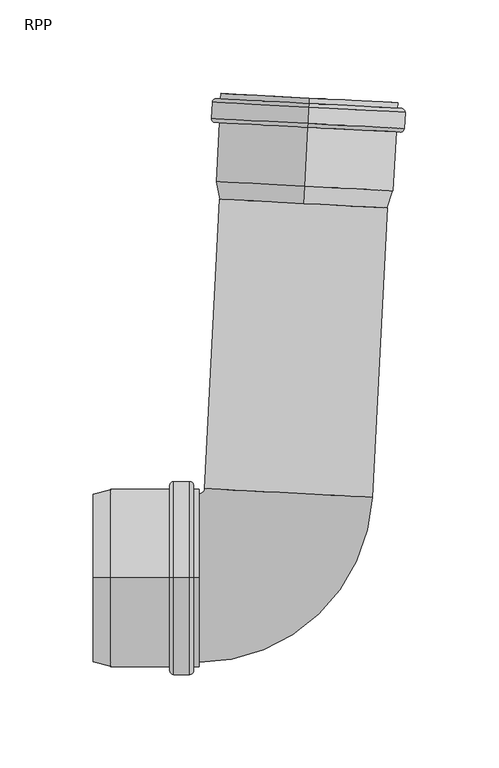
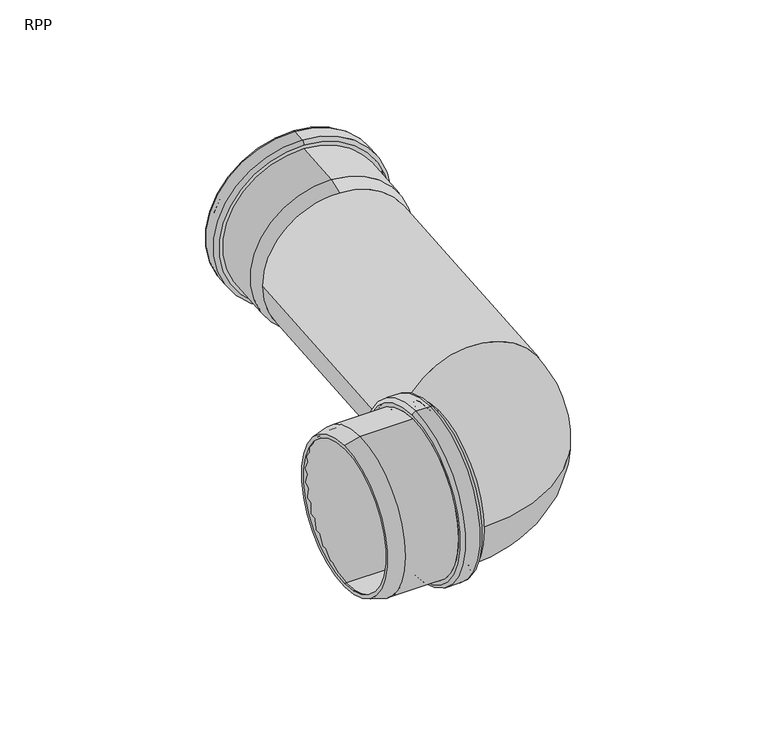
"""IFC4 building model written with IfcOpenShell, lengths in millimetres: pipe fitting geometry, RAUPIANO PLUS Deflection Bend : RPP."""

from ifc_helpers import new_model, si_unit, point, frame, origin, place, context, project, spatial, polyline, circle_curve, ellipse_curve, trimmed, source, transform, mapped, element, save
from ifc_brep_helpers import plane_surface, cylinder_surface, revolved_surface, advanced_brep


def rpp_7684fa40(model_context):
    return source(origin(), model_context, "Body", "AdvancedBrep", [
        advanced_brep(
        [(-58.9502992, 0.0, 45.3), (-58.9502992, 0.0, -45.3), (-92.4305367, 0.0, -45.3), (-92.4305367, 0.0, 45.3), (-58.4502992, 0.0, 49.7), (-58.4502992, 0.0, -49.7), (-58.9502992, 0.0, -49.2), (-58.9502992, 0.0, 49.2), (-51.1502992, 0.0, 49.7), (-51.1502992, 0.0, -49.7), (-50.6502992, 0.0, 49.2), (-50.6502992, 0.0, -49.2), (-45.5502992, 0.0, 45.3), (-45.5502992, 0.0, -45.3), (-50.6502992, 0.0, -45.3), (-50.6502992, 0.0, 45.3), (-48.4502992, 0.0, 47.5), (-48.4502992, 0.0, -47.5), (-45.5502992, 0.0, -47.5), (-45.5502992, 0.0, 47.5), (-50.4502992, 0.0, 51.9), (-50.4502992, 0.0, -51.9), (-48.4502992, 0.0, -49.9), (-48.4502992, 0.0, 49.9), (-59.1502992, 0.0, 51.9), (-59.1502992, 0.0, -51.9), (-61.1502992, 0.0, 49.9), (-61.1502992, 0.0, -49.9), (-92.7201722, 0.0, 47.5), (-92.7201722, 0.0, -47.5), (-61.1502992, 0.0, -47.5), (-61.1502992, 0.0, 47.5), (-102.0502992, 0.0, 45.0), (-102.0502992, 0.0, -45.0), (-102.0502992, 0.0, -42.7223924), (-102.0502992, 0.0, 42.7223924)],
        [
            (0, 1, circle_curve(frame((-58.9502992, 0.0, 0.0), z_axis=(1.0, 0.0, 0.0), x_axis=(0.0, 0.0, -1.0)), 45.3)),
            (1, 2),
            (2, 3, circle_curve(frame((-92.4305367, 0.0, 0.0), z_axis=(-1.0, 0.0, 0.0), x_axis=(0.0, 0.0, -1.0)), 45.3)),
            (3, 0),
            (4, 5, circle_curve(frame((-58.4502992, 0.0, 0.0), z_axis=(1.0, 0.0, 0.0), x_axis=(0.0, 0.0, -1.0)), 49.7)),
            (5, 6, circle_curve(frame((-58.4502992, 0.0, -49.2), z_axis=(0.0, 1.0, 0.0), x_axis=(0.0, 0.0, 1.0)), 0.5)),
            (6, 7, circle_curve(frame((-58.9502992, 0.0, 0.0), z_axis=(-1.0, 0.0, 0.0), x_axis=(0.0, 0.0, -1.0)), 49.2)),
            (7, 4, circle_curve(frame((-58.4502992, 0.0, 49.2), z_axis=(0.0, 1.0, 0.0), x_axis=(0.0, 0.0, -1.0)), 0.5)),
            (8, 9, circle_curve(frame((-51.1502992, 0.0, 0.0), z_axis=(1.0, 0.0, 0.0), x_axis=(0.0, 0.0, -1.0)), 49.7)),
            (9, 5),
            (4, 8),
            (10, 11, circle_curve(frame((-50.6502992, 0.0, 0.0), z_axis=(1.0, 0.0, 0.0), x_axis=(0.0, 0.0, -1.0)), 49.2)),
            (11, 9, circle_curve(frame((-51.1502992, 0.0, -49.2), z_axis=(0.0, 1.0, 0.0), x_axis=(0.0, 0.0, 1.0)), 0.5)),
            (8, 10, circle_curve(frame((-51.1502992, 0.0, 49.2), z_axis=(0.0, 1.0, 0.0), x_axis=(0.0, 0.0, -1.0)), 0.5)),
            (12, 13, circle_curve(frame((-45.5502992, 0.0, 0.0), z_axis=(1.0, 0.0, 0.0), x_axis=(0.0, 0.0, -1.0)), 45.3)),
            (13, 14),
            (14, 15, circle_curve(frame((-50.6502992, 0.0, 0.0), z_axis=(-1.0, 0.0, 0.0), x_axis=(0.0, 0.0, -1.0)), 45.3)),
            (15, 12),
            (16, 17, circle_curve(frame((-48.4502992, 0.0, 0.0), z_axis=(1.0, 0.0, 0.0), x_axis=(0.0, 0.0, -1.0)), 47.5)),
            (17, 18),
            (18, 19, circle_curve(frame((-45.5502992, 0.0, 0.0), z_axis=(-1.0, 0.0, 0.0), x_axis=(0.0, 0.0, -1.0)), 47.5)),
            (19, 16),
            (20, 21, circle_curve(frame((-50.4502992, 0.0, 0.0), z_axis=(1.0, 0.0, 0.0), x_axis=(0.0, 0.0, -1.0)), 51.9)),
            (21, 22, circle_curve(frame((-50.4502992, 0.0, -49.9), z_axis=(0.0, -1.0, 0.0), x_axis=(0.0, 0.0, 1.0)), 2.0)),
            (22, 23, circle_curve(frame((-48.4502992, 0.0, 0.0), z_axis=(-1.0, 0.0, 0.0), x_axis=(0.0, 0.0, -1.0)), 49.9)),
            (23, 20, circle_curve(frame((-50.4502992, 0.0, 49.9), z_axis=(0.0, -1.0, 0.0), x_axis=(0.0, 0.0, -1.0)), 2.0)),
            (24, 25, circle_curve(frame((-59.1502992, 0.0, 0.0), z_axis=(1.0, 0.0, 0.0), x_axis=(0.0, 0.0, -1.0)), 51.9)),
            (25, 21),
            (20, 24),
            (26, 27, circle_curve(frame((-61.1502992, 0.0, 0.0), z_axis=(1.0, 0.0, 0.0), x_axis=(0.0, 0.0, -1.0)), 49.9)),
            (27, 25, circle_curve(frame((-59.1502992, 0.0, -49.9), z_axis=(0.0, -1.0, 0.0), x_axis=(0.0, 0.0, 1.0)), 2.0)),
            (24, 26, circle_curve(frame((-59.1502992, 0.0, 49.9), z_axis=(0.0, -1.0, 0.0), x_axis=(0.0, 0.0, -1.0)), 2.0)),
            (28, 29, circle_curve(frame((-92.7201722, 0.0, 0.0), z_axis=(1.0, 0.0, 0.0), x_axis=(0.0, 0.0, -1.0)), 47.5)),
            (29, 30),
            (30, 31, circle_curve(frame((-61.1502992, 0.0, 0.0), z_axis=(-1.0, 0.0, 0.0), x_axis=(0.0, 0.0, -1.0)), 47.5)),
            (31, 28),
            (32, 33, circle_curve(frame((-102.0502992, 0.0, 0.0), z_axis=(1.0, 0.0, 0.0), x_axis=(0.0, 0.0, -1.0)), 45.0)),
            (33, 29),
            (28, 32),
            (2, 34),
            (34, 35, circle_curve(frame((-102.0502992, 0.0, 0.0), z_axis=(-1.0, 0.0, 0.0), x_axis=(0.0, 0.0, -1.0)), 42.7223924)),
            (35, 3),
            (1, 0, circle_curve(frame((-58.9502992, 0.0, 0.0), z_axis=(1.0, 0.0, 0.0), x_axis=(0.0, 0.0, 1.0)), 45.3)),
            (3, 2, circle_curve(frame((-92.4305367, 0.0, 0.0), z_axis=(-1.0, 0.0, 0.0), x_axis=(0.0, 0.0, 1.0)), 45.3)),
            (6, 7, circle_curve(frame((-58.9502992, 0.0, 0.0), z_axis=(1.0, 0.0, 0.0), x_axis=(0.0, 0.0, 1.0)), 49.2)),
            (5, 4, circle_curve(frame((-58.4502992, 0.0, 0.0), z_axis=(1.0, 0.0, 0.0), x_axis=(0.0, 0.0, 1.0)), 49.7)),
            (9, 8, circle_curve(frame((-51.1502992, 0.0, 0.0), z_axis=(1.0, 0.0, 0.0), x_axis=(0.0, 0.0, 1.0)), 49.7)),
            (11, 10, circle_curve(frame((-50.6502992, 0.0, 0.0), z_axis=(1.0, 0.0, 0.0), x_axis=(0.0, 0.0, 1.0)), 49.2)),
            (14, 15, circle_curve(frame((-50.6502992, 0.0, 0.0), z_axis=(1.0, 0.0, 0.0), x_axis=(0.0, 0.0, 1.0)), 45.3)),
            (13, 12, circle_curve(frame((-45.5502992, 0.0, 0.0), z_axis=(1.0, 0.0, 0.0), x_axis=(0.0, 0.0, 1.0)), 45.3)),
            (18, 19, circle_curve(frame((-45.5502992, 0.0, 0.0), z_axis=(1.0, 0.0, 0.0), x_axis=(0.0, 0.0, 1.0)), 47.5)),
            (17, 16, circle_curve(frame((-48.4502992, 0.0, 0.0), z_axis=(1.0, 0.0, 0.0), x_axis=(0.0, 0.0, 1.0)), 47.5)),
            (22, 23, circle_curve(frame((-48.4502992, 0.0, 0.0), z_axis=(1.0, 0.0, 0.0), x_axis=(0.0, 0.0, 1.0)), 49.9)),
            (21, 20, circle_curve(frame((-50.4502992, 0.0, 0.0), z_axis=(1.0, 0.0, 0.0), x_axis=(0.0, 0.0, 1.0)), 51.9)),
            (25, 24, circle_curve(frame((-59.1502992, 0.0, 0.0), z_axis=(1.0, 0.0, 0.0), x_axis=(0.0, 0.0, 1.0)), 51.9)),
            (27, 26, circle_curve(frame((-61.1502992, 0.0, 0.0), z_axis=(1.0, 0.0, 0.0), x_axis=(0.0, 0.0, 1.0)), 49.9)),
            (30, 31, circle_curve(frame((-61.1502992, 0.0, 0.0), z_axis=(1.0, 0.0, 0.0), x_axis=(0.0, 0.0, 1.0)), 47.5)),
            (29, 28, circle_curve(frame((-92.7201722, 0.0, 0.0), z_axis=(1.0, 0.0, 0.0), x_axis=(0.0, 0.0, 1.0)), 47.5)),
            (33, 32, circle_curve(frame((-102.0502992, 0.0, 0.0), z_axis=(1.0, 0.0, 0.0), x_axis=(0.0, 0.0, 1.0)), 45.0)),
            (34, 35, circle_curve(frame((-102.0502992, 0.0, 0.0), z_axis=(1.0, 0.0, 0.0), x_axis=(0.0, 0.0, 1.0)), 42.7223924)),
        ],
        [
            revolved_surface(polyline([(-92.4305367, 0.0, -45.3), (-58.9502992, 0.0, -45.3)]), (-102.0502992, 0.0, 0.0), (-1.0, 0.0, 0.0)),
            revolved_surface(trimmed(ellipse_curve(frame((-58.4502992, 0.0, -49.2), z_axis=(0.0, -1.0, 0.0), x_axis=(0.0, 0.0, 1.0)), 0.5, 0.5), [point((-58.9502992, 0.0, -49.2))], [point((-58.4502992, 0.0, -49.7))], True, "CARTESIAN"), (-102.0502992, 0.0, 0.0), (-1.0, 0.0, 0.0)),
            revolved_surface(polyline([(-58.4502992, 0.0, -49.7), (-51.1502992, 0.0, -49.7)]), (-102.0502992, 0.0, 0.0), (-1.0, 0.0, 0.0)),
            revolved_surface(trimmed(ellipse_curve(frame((-51.1502992, 0.0, -49.2), z_axis=(0.0, -1.0, 0.0), x_axis=(0.0, 0.0, 1.0)), 0.5, 0.5), [point((-51.1502992, 0.0, -49.7))], [point((-50.6502992, 0.0, -49.2))], True, "CARTESIAN"), (-102.0502992, 0.0, 0.0), (-1.0, 0.0, 0.0)),
            revolved_surface(polyline([(-50.6502992, 0.0, -45.3), (-45.5502992, 0.0, -45.3)]), (-102.0502992, 0.0, 0.0), (-1.0, 0.0, 0.0)),
            cylinder_surface(frame((-102.0502992, 0.0, 0.0), z_axis=(-1.0, 0.0, 0.0), x_axis=(0.0, 0.0, -1.0)), 47.5),
            revolved_surface(trimmed(ellipse_curve(frame((-50.4502992, 0.0, -49.9), z_axis=(0.0, 1.0, 0.0), x_axis=(0.0, 0.0, 1.0)), 2.0, 2.0), [point((-48.4502992, 0.0, -49.9))], [point((-50.4502992, 0.0, -51.9))], True, "CARTESIAN"), (-102.0502992, 0.0, 0.0), (-1.0, 0.0, 0.0)),
            cylinder_surface(frame((-102.0502992, 0.0, 0.0), z_axis=(-1.0, 0.0, 0.0), x_axis=(0.0, 0.0, -1.0)), 51.9),
            revolved_surface(trimmed(ellipse_curve(frame((-59.1502992, 0.0, -49.9), z_axis=(0.0, 1.0, 0.0), x_axis=(0.0, 0.0, 1.0)), 2.0, 2.0), [point((-59.1502992, 0.0, -51.9))], [point((-61.1502992, 0.0, -49.9))], True, "CARTESIAN"), (-102.0502992, 0.0, 0.0), (-1.0, 0.0, 0.0)),
            revolved_surface(polyline([(-92.7201722, 0.0, -47.5), (-102.0502992, 0.0, -45.0)]), (-102.0502992, 0.0, 0.0), (-1.0, 0.0, 0.0)),
            revolved_surface(polyline([(-102.0502992, 0.0, -42.7223924), (-92.4305367, 0.0, -45.3)]), (-102.0502992, 0.0, 0.0), (-1.0, 0.0, 0.0)),
            revolved_surface(polyline([(-92.4305367, 0.0, 45.3), (-58.9502992, 0.0, 45.3)]), (-102.0502992, 0.0, 0.0), (-1.0, 0.0, 0.0)),
            plane_surface(frame((-58.9502992, 0.0, 0.0), z_axis=(1.0, 0.0, 0.0), x_axis=(0.0, 0.0, 1.0))),
            revolved_surface(trimmed(ellipse_curve(frame((-58.4502992, 0.0, 49.2), z_axis=(0.0, 1.0, 0.0), x_axis=(0.0, 0.0, -1.0)), 0.5, 0.5), [point((-58.9502992, 0.0, 49.2))], [point((-58.4502992, 0.0, 49.7))], True, "CARTESIAN"), (-102.0502992, 0.0, 0.0), (-1.0, 0.0, 0.0)),
            revolved_surface(polyline([(-58.4502992, 0.0, 49.7), (-51.1502992, 0.0, 49.7)]), (-102.0502992, 0.0, 0.0), (-1.0, 0.0, 0.0)),
            revolved_surface(trimmed(ellipse_curve(frame((-51.1502992, 0.0, 49.2), z_axis=(0.0, 1.0, 0.0), x_axis=(0.0, 0.0, -1.0)), 0.5, 0.5), [point((-51.1502992, 0.0, 49.7))], [point((-50.6502992, 0.0, 49.2))], True, "CARTESIAN"), (-102.0502992, 0.0, 0.0), (-1.0, 0.0, 0.0)),
            plane_surface(frame((-50.6502992, 0.0, 0.0), z_axis=(-1.0, 0.0, 0.0), x_axis=(0.0, 0.0, 1.0))),
            revolved_surface(polyline([(-50.6502992, 0.0, 45.3), (-45.5502992, 0.0, 45.3)]), (-102.0502992, 0.0, 0.0), (-1.0, 0.0, 0.0)),
            plane_surface(frame((-45.5502992, 0.0, 0.0), z_axis=(1.0, 0.0, 0.0), x_axis=(0.0, 0.0, 1.0))),
            cylinder_surface(frame((-102.0502992, 0.0, 0.0), z_axis=(-1.0, 0.0, 0.0), x_axis=(0.0, 0.0, 1.0)), 47.5),
            plane_surface(frame((-48.4502992, 0.0, 0.0), z_axis=(1.0, 0.0, 0.0), x_axis=(0.0, 0.0, 1.0))),
            revolved_surface(trimmed(ellipse_curve(frame((-50.4502992, 0.0, 49.9), z_axis=(0.0, -1.0, 0.0), x_axis=(0.0, 0.0, -1.0)), 2.0, 2.0), [point((-48.4502992, 0.0, 49.9))], [point((-50.4502992, 0.0, 51.9))], True, "CARTESIAN"), (-102.0502992, 0.0, 0.0), (-1.0, 0.0, 0.0)),
            cylinder_surface(frame((-102.0502992, 0.0, 0.0), z_axis=(-1.0, 0.0, 0.0), x_axis=(0.0, 0.0, 1.0)), 51.9),
            revolved_surface(trimmed(ellipse_curve(frame((-59.1502992, 0.0, 49.9), z_axis=(0.0, -1.0, 0.0), x_axis=(0.0, 0.0, -1.0)), 2.0, 2.0), [point((-59.1502992, 0.0, 51.9))], [point((-61.1502992, 0.0, 49.9))], True, "CARTESIAN"), (-102.0502992, 0.0, 0.0), (-1.0, 0.0, 0.0)),
            plane_surface(frame((-61.1502992, 0.0, 0.0), z_axis=(-1.0, 0.0, 0.0), x_axis=(0.0, 0.0, 1.0))),
            revolved_surface(polyline([(-92.7201722, 0.0, 47.5), (-102.0502992, 0.0, 45.0)]), (-102.0502992, 0.0, 0.0), (-1.0, 0.0, 0.0)),
            plane_surface(frame((-102.0502992, 0.0, 0.0), z_axis=(-1.0, 0.0, 0.0), x_axis=(0.0, 0.0, 1.0))),
            revolved_surface(polyline([(-102.0502992, 0.0, 42.7223924), (-92.4305367, 0.0, 45.3)]), (-102.0502992, 0.0, 0.0), (-1.0, 0.0, 0.0)),
        ],
        [
            (0, [[1, 2, 3, 4]]),
            (1, [[5, 6, 7, 8]]),
            (2, [[9, 10, -5, 11]]),
            (3, [[12, 13, -9, 14]]),
            (4, [[15, 16, 17, 18]]),
            (5, [[19, 20, 21, 22]]),
            (6, [[23, 24, 25, 26]]),
            (7, [[27, 28, -23, 29]]),
            (8, [[30, 31, -27, 32]]),
            (5, [[33, 34, 35, 36]]),
            (9, [[37, 38, -33, 39]]),
            (10, [[-3, 40, 41, 42]]),
            (11, [[43, -4, 44, -2]]),
            (12, [[45, -7], [-43, -1]]),
            (13, [[46, -8, -45, -6]]),
            (14, [[47, -11, -46, -10]]),
            (15, [[48, -14, -47, -13]]),
            (16, [[-48, -12], [49, -17]]),
            (17, [[50, -18, -49, -16]]),
            (18, [[51, -21], [-50, -15]]),
            (19, [[52, -22, -51, -20]]),
            (20, [[53, -25], [-52, -19]]),
            (21, [[54, -26, -53, -24]]),
            (22, [[55, -29, -54, -28]]),
            (23, [[56, -32, -55, -31]]),
            (24, [[-56, -30], [57, -35]]),
            (19, [[58, -36, -57, -34]]),
            (25, [[59, -39, -58, -38]]),
            (26, [[-59, -37], [60, -41]]),
            (27, [[-44, -42, -60, -40]]),
        ],
    ),
        advanced_brep(
        [(-45.5502992, 0.0, -42.8), (-102.0502992, 0.0, -42.8), (-102.0502992, 0.0, 42.8), (-45.5502992, 0.0, 42.8), (-45.5502992, -42.8, 0.0), (-98.3182484, 0.0, 45.0), (-98.3182484, 0.0, -45.0), (-45.5502992, 0.0, -45.0), (-45.5502992, -45.0, 0.0), (-45.5502992, 0.0, 45.0), (-102.0502992, 0.0, 44.0), (-102.0502992, 0.0, -44.0), (-45.5502992, 42.8, 0.0), (-45.5502992, 45.0, 0.0), (-40.3574256, 47.727853, 0.0), (45.1252626, 43.2478952, 0.0), (-42.5544106, 47.8429921, 0.0), (47.3222475, 43.1327561, 0.0), (2.3839185, 45.4878741, 45.0), (2.3839185, 45.4878741, -45.0), (55.4343207, 197.920334, 0.0), (-34.4423374, 202.63057, 0.0), (53.2373358, 198.0354731, 0.0), (-32.2453524, 202.5154309, 0.0)],
        [
            (0, 1),
            (1, 2, circle_curve(frame((-102.0502992, 0.0, 0.0), z_axis=(-1.0, 0.0, 0.0), x_axis=(0.0, 0.0, -1.0)), 42.8)),
            (2, 3),
            (3, 4, circle_curve(frame((-45.5502992, 0.0, 0.0), z_axis=(1.0, 0.0, 0.0), x_axis=(0.0, 0.0, -1.0)), 42.8)),
            (4, 0, circle_curve(frame((-45.5502992, 0.0, 0.0), z_axis=(1.0, 0.0, 0.0), x_axis=(0.0, 0.0, -1.0)), 42.8)),
            (5, 6, circle_curve(frame((-98.3182484, 0.0, 0.0), z_axis=(1.0, 0.0, 0.0), x_axis=(0.0, 0.0, -1.0)), 45.0)),
            (6, 7),
            (7, 8, circle_curve(frame((-45.5502992, 0.0, 0.0), z_axis=(-1.0, 0.0, 0.0), x_axis=(0.0, 0.0, -1.0)), 45.0)),
            (8, 9, circle_curve(frame((-45.5502992, 0.0, 0.0), z_axis=(-1.0, 0.0, 0.0), x_axis=(0.0, 0.0, -1.0)), 45.0)),
            (9, 5),
            (5, 10),
            (10, 11, circle_curve(frame((-102.0502992, 0.0, 0.0), z_axis=(1.0, 0.0, 0.0), x_axis=(0.0, 0.0, -1.0)), 44.0)),
            (11, 6),
            (0, 12, circle_curve(frame((-45.5502992, 0.0, 0.0), z_axis=(1.0, 0.0, 0.0), x_axis=(0.0, 0.0, 1.0)), 42.8)),
            (12, 3, circle_curve(frame((-45.5502992, 0.0, 0.0), z_axis=(1.0, 0.0, 0.0), x_axis=(0.0, 0.0, 1.0)), 42.8)),
            (2, 1, circle_curve(frame((-102.0502992, 0.0, 0.0), z_axis=(-1.0, 0.0, 0.0), x_axis=(0.0, 0.0, 1.0)), 42.8)),
            (6, 5, circle_curve(frame((-98.3182484, 0.0, 0.0), z_axis=(1.0, 0.0, 0.0), x_axis=(0.0, 0.0, 1.0)), 45.0)),
            (9, 13, circle_curve(frame((-45.5502992, 0.0, 0.0), z_axis=(-1.0, 0.0, 0.0), x_axis=(0.0, 0.0, 1.0)), 45.0)),
            (13, 7, circle_curve(frame((-45.5502992, 0.0, 0.0), z_axis=(-1.0, 0.0, 0.0), x_axis=(0.0, 0.0, 1.0)), 45.0)),
            (11, 10, circle_curve(frame((-102.0502992, 0.0, 0.0), z_axis=(1.0, 0.0, 0.0), x_axis=(0.0, 0.0, 1.0)), 44.0)),
            (14, 12, circle_curve(frame((-45.5502992, 48.0, 0.0), z_axis=(0.0, 0.0, -1.0), x_axis=(0.0, -1.0, 0.0)), 5.2)),
            (4, 15, circle_curve(frame((-45.5502992, 48.0, 0.0), z_axis=(0.0, 0.0, 1.0), x_axis=(0.0, -1.0, 0.0)), 90.8)),
            (15, 14, circle_curve(frame((2.3839185, 45.4878741, 0.0), z_axis=(0.052335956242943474, 0.9986295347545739, 0.0), x_axis=(-0.9986295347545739, 0.052335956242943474, 0.0)), 42.8)),
            (14, 15, circle_curve(frame((2.3839185, 45.4878741, 0.0), z_axis=(0.052335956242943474, 0.9986295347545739, 0.0), x_axis=(-0.9986295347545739, 0.052335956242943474, 0.0)), 42.8)),
            (16, 13, circle_curve(frame((-45.5502992, 48.0, 0.0), z_axis=(0.0, 0.0, -1.0), x_axis=(0.0, -1.0, 0.0)), 3.0)),
            (8, 17, circle_curve(frame((-45.5502992, 48.0, 0.0), z_axis=(0.0, 0.0, 1.0), x_axis=(0.0, -1.0, 0.0)), 93.0)),
            (17, 18, circle_curve(frame((2.3839185, 45.4878741, 0.0), z_axis=(-0.052335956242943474, -0.9986295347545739, 0.0), x_axis=(-0.9986295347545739, 0.052335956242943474, 0.0)), 45.0)),
            (18, 16, circle_curve(frame((2.3839185, 45.4878741, 0.0), z_axis=(-0.052335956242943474, -0.9986295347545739, 0.0), x_axis=(-0.9986295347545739, 0.052335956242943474, 0.0)), 45.0)),
            (16, 19, circle_curve(frame((2.3839185, 45.4878741, 0.0), z_axis=(-0.052335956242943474, -0.9986295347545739, 0.0), x_axis=(-0.9986295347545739, 0.052335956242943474, 0.0)), 45.0)),
            (19, 17, circle_curve(frame((2.3839185, 45.4878741, 0.0), z_axis=(-0.052335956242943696, -0.9986295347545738, 0.0), x_axis=(-0.9986295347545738, 0.052335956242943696, 0.0)), 45.0)),
            (20, 21, circle_curve(frame((10.4959917, 200.275452, 0.0), z_axis=(0.05233595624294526, 0.9986295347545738, 0.0), x_axis=(-0.9986295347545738, 0.05233595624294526, 0.0)), 45.0)),
            (21, 20, circle_curve(frame((10.4959917, 200.275452, 0.0), z_axis=(0.05233595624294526, 0.9986295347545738, 0.0), x_axis=(-0.9986295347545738, 0.05233595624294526, 0.0)), 45.0)),
            (22, 23, circle_curve(frame((10.4959917, 200.275452, 0.0), z_axis=(-0.05233595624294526, -0.9986295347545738, 0.0), x_axis=(-0.9986295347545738, 0.05233595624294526, 0.0)), 42.8)),
            (23, 22, circle_curve(frame((10.4959917, 200.275452, 0.0), z_axis=(-0.05233595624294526, -0.9986295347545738, 0.0), x_axis=(-0.9986295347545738, 0.05233595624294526, 0.0)), 42.8)),
            (23, 14),
            (15, 22),
            (21, 16),
            (17, 20),
        ],
        [
            revolved_surface(polyline([(-102.0502992, 0.0, -42.8), (-45.5502992, 0.0, -42.8)]), (-45.5502992, 0.0, 0.0), (-1.0, 0.0, 0.0)),
            cylinder_surface(frame((-45.5502992, 0.0, 0.0), z_axis=(-1.0, 0.0, 0.0), x_axis=(0.0, 0.0, -1.0)), 45.0),
            revolved_surface(polyline([(-98.3182484, 0.0, -45.0), (-102.0502992, 0.0, -44.0)]), (-45.5502992, 0.0, 0.0), (-1.0, 0.0, 0.0)),
            revolved_surface(polyline([(-102.0502992, 0.0, 42.8), (-45.5502992, 0.0, 42.8)]), (-45.5502992, 0.0, 0.0), (-1.0, 0.0, 0.0)),
            cylinder_surface(frame((-45.5502992, 0.0, 0.0), z_axis=(-1.0, 0.0, 0.0), x_axis=(0.0, 0.0, 1.0)), 45.0),
            revolved_surface(polyline([(-98.3182484, 0.0, 45.0), (-102.0502992, 0.0, 44.0)]), (-45.5502992, 0.0, 0.0), (-1.0, 0.0, 0.0)),
            plane_surface(frame((-102.0502992, 0.0, 0.0), z_axis=(-1.0, 0.0, 0.0), x_axis=(0.0, 0.0, 1.0))),
            revolved_surface(trimmed(ellipse_curve(frame((-45.5502992, 0.0, 0.0), z_axis=(1.0, 0.0, 0.0), x_axis=(0.0, 1.0, 0.0)), 42.8, 42.8), [point((-45.5502992, -42.8, 0.0))], [point((-45.5502992, 42.8, 0.0))], True, "CARTESIAN"), (-45.5502992, 48.0, 0.0), (0.0, 0.0, 1.0)),
            revolved_surface(trimmed(ellipse_curve(frame((-45.5502992, 0.0, 0.0), z_axis=(1.0, 0.0, 0.0), x_axis=(0.0, 1.0, 0.0)), 42.8, 42.8), [point((-45.5502992, 42.8, 0.0))], [point((-45.5502992, -42.8, 0.0))], True, "CARTESIAN"), (-45.5502992, 48.0, 0.0), (0.0, 0.0, 1.0)),
            revolved_surface(trimmed(ellipse_curve(frame((-45.5502992, 0.0, 0.0), z_axis=(-1.0, 0.0, 0.0), x_axis=(0.0, 1.0, 0.0)), 45.0, 45.0), [point((-45.5502992, -45.0, 0.0))], [point((-45.5502992, 45.0, 0.0))], True, "CARTESIAN"), (-45.5502992, 48.0, 0.0), (0.0, 0.0, 1.0)),
            revolved_surface(trimmed(ellipse_curve(frame((-45.5502992, 0.0, 0.0), z_axis=(-1.0, 0.0, 0.0), x_axis=(0.0, 1.0, 0.0)), 45.0, 45.0), [point((-45.5502992, 45.0, 0.0))], [point((-45.5502992, -45.0, 0.0))], True, "CARTESIAN"), (-45.5502992, 48.0, 0.0), (0.0, 0.0, 1.0)),
            plane_surface(frame((10.4959917, 200.275452, 0.0), z_axis=(0.05233595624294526, 0.9986295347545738, 0.0), x_axis=(0.0, 0.0, 1.0))),
            revolved_surface(polyline([(-32.245352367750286, 202.51543095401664, 0.0), (-40.35742558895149, 47.727852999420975, 0.0)]), (2.3839185, 45.4878741, 0.0), (0.05233595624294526, 0.9986295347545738, 0.0)),
            cylinder_surface(frame((2.3839185, 45.4878741, 0.0), z_axis=(-0.05233595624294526, -0.9986295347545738, 0.0), x_axis=(-0.9986295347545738, 0.05233595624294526, 0.0)), 45.0),
        ],
        [
            (0, [[1, 2, 3, 4, 5]]),
            (1, [[6, 7, 8, 9, 10]]),
            (2, [[-6, 11, 12, 13]]),
            (3, [[-1, 14, 15, -3, 16]]),
            (4, [[-7, 17, -10, 18, 19]]),
            (5, [[-13, 20, -11, -17]]),
            (6, [[-12, -20], [-2, -16]]),
            (7, [[21, -14, -5, 22, 23]]),
            (8, [[-21, 24, -22, -4, -15]]),
            (9, [[25, -18, -9, 26, 27, 28]]),
            (10, [[-25, 29, 30, -26, -8, -19]]),
            (11, [[31, 32], [33, 34]]),
            (12, [[-34, 35, -23, 36]]),
            (12, [[-33, -36, -24, -35]]),
            (13, [[-32, 37, -28, -27, 38]]),
            (13, [[-31, -38, -30, -29, -37]]),
        ],
    ),
        advanced_brep(
        [(10.4959917, 200.275452, 42.7223924), (10.4959917, 200.275452, -42.7223924), (10.9994512, 209.882031, -45.3), (10.9994512, 209.882031, 45.3), (10.9842928, 209.5927924, 47.5), (10.9842928, 209.5927924, -47.5), (10.4959917, 200.275452, -45.0), (10.4959917, 200.275452, 45.0), (12.6365323, 241.1194, 47.5), (12.6365323, 241.1194, -47.5), (12.7412042, 243.116659, 51.9), (12.7412042, 243.116659, -51.9), (12.6365323, 241.1194, -49.9), (12.6365323, 241.1194, 49.9), (13.196527, 251.804736, 51.9), (13.196527, 251.804736, -51.9), (13.3011989, 253.8019951, 49.9), (13.3011989, 253.8019951, -49.9), (13.4529732, 256.6980207, 47.5), (13.4529732, 256.6980207, -47.5), (13.3011989, 253.8019951, -47.5), (13.3011989, 253.8019951, 47.5), (13.1860598, 251.6050101, 45.3), (13.1860598, 251.6050101, -45.3), (13.4529732, 256.6980207, -45.3), (13.4529732, 256.6980207, 45.3), (13.1598919, 251.1056953, 49.7), (13.1598919, 251.1056953, -49.7), (13.1860598, 251.6050101, -49.2), (13.1860598, 251.6050101, 49.2), (12.7778394, 243.8156997, 49.7), (12.7778394, 243.8156997, -49.7), (12.7516714, 243.3163849, 49.2), (12.7516714, 243.3163849, -49.2), (12.7516714, 243.3163849, -45.3), (12.7516714, 243.3163849, 45.3)],
        [
            (0, 1, circle_curve(frame((10.4959917, 200.275452, 0.0), z_axis=(-0.05233595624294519, -0.9986295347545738, 0.0), x_axis=(0.0, 0.0, -1.0)), 42.7223924)),
            (1, 2),
            (2, 3, circle_curve(frame((10.9994512, 209.882031, 0.0), z_axis=(0.05233595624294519, 0.9986295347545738, 0.0), x_axis=(0.0, 0.0, -1.0)), 45.3)),
            (3, 0),
            (4, 5, circle_curve(frame((10.9842928, 209.5927924, 0.0), z_axis=(-0.05233595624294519, -0.9986295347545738, 0.0), x_axis=(0.0, 0.0, -1.0)), 47.5)),
            (5, 6),
            (6, 7, circle_curve(frame((10.4959917, 200.275452, 0.0), z_axis=(0.05233595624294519, 0.9986295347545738, 0.0), x_axis=(0.0, 0.0, -1.0)), 45.0)),
            (7, 4),
            (8, 9, circle_curve(frame((12.6365323, 241.1194, 0.0), z_axis=(-0.05233595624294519, -0.9986295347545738, 0.0), x_axis=(0.0, 0.0, -1.0)), 47.5)),
            (9, 5),
            (4, 8),
            (10, 11, circle_curve(frame((12.7412042, 243.116659, 0.0), z_axis=(-0.05233595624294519, -0.9986295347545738, 0.0), x_axis=(0.0, 0.0, -1.0)), 51.9)),
            (11, 12, circle_curve(frame((12.7412042, 243.116659, -49.9), z_axis=(-0.9986295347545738, 0.05233595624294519, 0.0), x_axis=(0.0, 0.0, 1.0)), 2.0)),
            (12, 13, circle_curve(frame((12.6365323, 241.1194, 0.0), z_axis=(0.05233595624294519, 0.9986295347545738, 0.0), x_axis=(0.0, 0.0, -1.0)), 49.9)),
            (13, 10, circle_curve(frame((12.7412042, 243.116659, 49.9), z_axis=(-0.9986295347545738, 0.05233595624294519, 0.0), x_axis=(0.0, 0.0, -1.0)), 2.0)),
            (14, 15, circle_curve(frame((13.196527, 251.804736, 0.0), z_axis=(-0.05233595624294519, -0.9986295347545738, 0.0), x_axis=(0.0, 0.0, -1.0)), 51.9)),
            (15, 11),
            (10, 14),
            (16, 17, circle_curve(frame((13.3011989, 253.8019951, 0.0), z_axis=(-0.05233595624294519, -0.9986295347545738, 0.0), x_axis=(0.0, 0.0, -1.0)), 49.9)),
            (17, 15, circle_curve(frame((13.196527, 251.804736, -49.9), z_axis=(-0.9986295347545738, 0.05233595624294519, 0.0), x_axis=(0.0, 0.0, 1.0)), 2.0)),
            (14, 16, circle_curve(frame((13.196527, 251.804736, 49.9), z_axis=(-0.9986295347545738, 0.05233595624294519, 0.0), x_axis=(0.0, 0.0, -1.0)), 2.0)),
            (18, 19, circle_curve(frame((13.4529732, 256.6980207, 0.0), z_axis=(-0.05233595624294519, -0.9986295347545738, 0.0), x_axis=(0.0, 0.0, -1.0)), 47.5)),
            (19, 20),
            (20, 21, circle_curve(frame((13.3011989, 253.8019951, 0.0), z_axis=(0.05233595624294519, 0.9986295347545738, 0.0), x_axis=(0.0, 0.0, -1.0)), 47.5)),
            (21, 18),
            (22, 23, circle_curve(frame((13.1860598, 251.6050101, 0.0), z_axis=(-0.05233595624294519, -0.9986295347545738, 0.0), x_axis=(0.0, 0.0, -1.0)), 45.3)),
            (23, 24),
            (24, 25, circle_curve(frame((13.4529732, 256.6980207, 0.0), z_axis=(0.05233595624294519, 0.9986295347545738, 0.0), x_axis=(0.0, 0.0, -1.0)), 45.3)),
            (25, 22),
            (26, 27, circle_curve(frame((13.1598919, 251.1056953, 0.0), z_axis=(-0.05233595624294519, -0.9986295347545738, 0.0), x_axis=(0.0, 0.0, -1.0)), 49.7)),
            (27, 28, circle_curve(frame((13.1598919, 251.1056953, -49.2), z_axis=(0.9986295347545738, -0.05233595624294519, 0.0), x_axis=(0.0, 0.0, 1.0)), 0.5)),
            (28, 29, circle_curve(frame((13.1860598, 251.6050101, 0.0), z_axis=(0.05233595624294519, 0.9986295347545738, 0.0), x_axis=(0.0, 0.0, -1.0)), 49.2)),
            (29, 26, circle_curve(frame((13.1598919, 251.1056953, 49.2), z_axis=(0.9986295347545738, -0.05233595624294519, 0.0), x_axis=(0.0, 0.0, -1.0)), 0.5)),
            (30, 31, circle_curve(frame((12.7778394, 243.8156997, 0.0), z_axis=(-0.05233595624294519, -0.9986295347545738, 0.0), x_axis=(0.0, 0.0, -1.0)), 49.7)),
            (31, 27),
            (26, 30),
            (32, 33, circle_curve(frame((12.7516714, 243.3163849, 0.0), z_axis=(-0.05233595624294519, -0.9986295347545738, 0.0), x_axis=(0.0, 0.0, -1.0)), 49.2)),
            (33, 31, circle_curve(frame((12.7778394, 243.8156997, -49.2), z_axis=(0.9986295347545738, -0.05233595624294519, 0.0), x_axis=(0.0, 0.0, 1.0)), 0.5)),
            (30, 32, circle_curve(frame((12.7778394, 243.8156997, 49.2), z_axis=(0.9986295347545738, -0.05233595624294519, 0.0), x_axis=(0.0, 0.0, -1.0)), 0.5)),
            (2, 34),
            (34, 35, circle_curve(frame((12.7516714, 243.3163849, 0.0), z_axis=(0.05233595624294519, 0.9986295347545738, 0.0), x_axis=(0.0, 0.0, -1.0)), 45.3)),
            (35, 3),
            (1, 0, circle_curve(frame((10.4959917, 200.275452, 0.0), z_axis=(-0.05233595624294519, -0.9986295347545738, 0.0), x_axis=(0.0, 0.0, 1.0)), 42.7223924)),
            (3, 2, circle_curve(frame((10.9994512, 209.882031, 0.0), z_axis=(0.05233595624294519, 0.9986295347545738, 0.0), x_axis=(0.0, 0.0, 1.0)), 45.3)),
            (6, 7, circle_curve(frame((10.4959917, 200.275452, 0.0), z_axis=(-0.05233595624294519, -0.9986295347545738, 0.0), x_axis=(0.0, 0.0, 1.0)), 45.0)),
            (5, 4, circle_curve(frame((10.9842928, 209.5927924, 0.0), z_axis=(-0.05233595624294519, -0.9986295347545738, 0.0), x_axis=(0.0, 0.0, 1.0)), 47.5)),
            (9, 8, circle_curve(frame((12.6365323, 241.1194, 0.0), z_axis=(-0.05233595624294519, -0.9986295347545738, 0.0), x_axis=(0.0, 0.0, 1.0)), 47.5)),
            (12, 13, circle_curve(frame((12.6365323, 241.1194, 0.0), z_axis=(-0.05233595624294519, -0.9986295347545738, 0.0), x_axis=(0.0, 0.0, 1.0)), 49.9)),
            (11, 10, circle_curve(frame((12.7412042, 243.116659, 0.0), z_axis=(-0.05233595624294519, -0.9986295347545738, 0.0), x_axis=(0.0, 0.0, 1.0)), 51.9)),
            (15, 14, circle_curve(frame((13.196527, 251.804736, 0.0), z_axis=(-0.05233595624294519, -0.9986295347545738, 0.0), x_axis=(0.0, 0.0, 1.0)), 51.9)),
            (17, 16, circle_curve(frame((13.3011989, 253.8019951, 0.0), z_axis=(-0.05233595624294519, -0.9986295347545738, 0.0), x_axis=(0.0, 0.0, 1.0)), 49.9)),
            (20, 21, circle_curve(frame((13.3011989, 253.8019951, 0.0), z_axis=(-0.05233595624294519, -0.9986295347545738, 0.0), x_axis=(0.0, 0.0, 1.0)), 47.5)),
            (19, 18, circle_curve(frame((13.4529732, 256.6980207, 0.0), z_axis=(-0.05233595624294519, -0.9986295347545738, 0.0), x_axis=(0.0, 0.0, 1.0)), 47.5)),
            (24, 25, circle_curve(frame((13.4529732, 256.6980207, 0.0), z_axis=(-0.05233595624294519, -0.9986295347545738, 0.0), x_axis=(0.0, 0.0, 1.0)), 45.3)),
            (23, 22, circle_curve(frame((13.1860598, 251.6050101, 0.0), z_axis=(-0.05233595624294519, -0.9986295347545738, 0.0), x_axis=(0.0, 0.0, 1.0)), 45.3)),
            (28, 29, circle_curve(frame((13.1860598, 251.6050101, 0.0), z_axis=(-0.05233595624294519, -0.9986295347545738, 0.0), x_axis=(0.0, 0.0, 1.0)), 49.2)),
            (27, 26, circle_curve(frame((13.1598919, 251.1056953, 0.0), z_axis=(-0.05233595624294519, -0.9986295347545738, 0.0), x_axis=(0.0, 0.0, 1.0)), 49.7)),
            (31, 30, circle_curve(frame((12.7778394, 243.8156997, 0.0), z_axis=(-0.05233595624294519, -0.9986295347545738, 0.0), x_axis=(0.0, 0.0, 1.0)), 49.7)),
            (33, 32, circle_curve(frame((12.7516714, 243.3163849, 0.0), z_axis=(-0.05233595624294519, -0.9986295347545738, 0.0), x_axis=(0.0, 0.0, 1.0)), 49.2)),
            (34, 35, circle_curve(frame((12.7516714, 243.3163849, 0.0), z_axis=(-0.05233595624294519, -0.9986295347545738, 0.0), x_axis=(0.0, 0.0, 1.0)), 45.3)),
        ],
        [
            revolved_surface(polyline([(10.9994512, 209.882031, -45.3), (10.4959917, 200.275452, -42.7223924)]), (10.4959917, 200.275452, 0.0), (0.05233595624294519, 0.9986295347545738, 0.0)),
            revolved_surface(polyline([(10.4959917, 200.275452, -45.0), (10.9842928, 209.5927924, -47.5)]), (10.4959917, 200.275452, 0.0), (0.05233595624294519, 0.9986295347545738, 0.0)),
            cylinder_surface(frame((10.4959917, 200.275452, 0.0), z_axis=(0.05233595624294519, 0.9986295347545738, 0.0), x_axis=(0.0, 0.0, -1.0)), 47.5),
            revolved_surface(trimmed(ellipse_curve(frame((12.7412042, 243.116659, -49.9), z_axis=(0.9986295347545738, -0.05233595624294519, 0.0), x_axis=(0.0, 0.0, 1.0)), 2.0, 2.0), [point((12.6365323, 241.1194, -49.9))], [point((12.7412042, 243.116659, -51.9))], True, "CARTESIAN"), (10.4959917, 200.275452, 0.0), (0.05233595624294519, 0.9986295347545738, 0.0)),
            cylinder_surface(frame((10.4959917, 200.275452, 0.0), z_axis=(0.05233595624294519, 0.9986295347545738, 0.0), x_axis=(0.0, 0.0, -1.0)), 51.9),
            revolved_surface(trimmed(ellipse_curve(frame((13.196527, 251.804736, -49.9), z_axis=(0.9986295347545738, -0.05233595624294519, 0.0), x_axis=(0.0, 0.0, 1.0)), 2.0, 2.0), [point((13.196527, 251.804736, -51.9))], [point((13.3011989, 253.8019951, -49.9))], True, "CARTESIAN"), (10.4959917, 200.275452, 0.0), (0.05233595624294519, 0.9986295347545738, 0.0)),
            revolved_surface(polyline([(13.452973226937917, 256.6980206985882, -45.3), (13.186059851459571, 251.6050100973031, -45.3)]), (10.4959917, 200.275452, 0.0), (0.05233595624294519, 0.9986295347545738, 0.0)),
            revolved_surface(trimmed(ellipse_curve(frame((13.1598919, 251.1056953, -49.2), z_axis=(-0.9986295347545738, 0.05233595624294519, 0.0), x_axis=(0.0, 0.0, 1.0)), 0.5, 0.5), [point((13.1860598, 251.6050101, -49.2))], [point((13.1598919, 251.1056953, -49.7))], True, "CARTESIAN"), (10.4959917, 200.275452, 0.0), (0.05233595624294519, 0.9986295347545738, 0.0)),
            revolved_surface(polyline([(13.159891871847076, 251.10569530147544, -49.7), (12.777839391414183, 243.81569970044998, -49.7)]), (10.4959917, 200.275452, 0.0), (0.05233595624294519, 0.9986295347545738, 0.0)),
            revolved_surface(trimmed(ellipse_curve(frame((12.7778394, 243.8156997, -49.2), z_axis=(-0.9986295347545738, 0.05233595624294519, 0.0), x_axis=(0.0, 0.0, 1.0)), 0.5, 0.5), [point((12.7778394, 243.8156997, -49.7))], [point((12.7516714, 243.3163849, -49.2))], True, "CARTESIAN"), (10.4959917, 200.275452, 0.0), (0.05233595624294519, 0.9986295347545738, 0.0)),
            revolved_surface(polyline([(12.751671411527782, 243.31638489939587, -45.3), (10.999451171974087, 209.8820310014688, -45.3)]), (10.4959917, 200.275452, 0.0), (0.05233595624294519, 0.9986295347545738, 0.0)),
            revolved_surface(polyline([(10.9994512, 209.882031, 45.3), (10.4959917, 200.275452, 42.7223924)]), (10.4959917, 200.275452, 0.0), (0.05233595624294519, 0.9986295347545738, 0.0)),
            plane_surface(frame((10.4959917, 200.275452, 0.0), z_axis=(-0.05233595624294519, -0.9986295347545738, 0.0), x_axis=(0.0, 0.0, 1.0))),
            revolved_surface(polyline([(10.4959917, 200.275452, 45.0), (10.9842928, 209.5927924, 47.5)]), (10.4959917, 200.275452, 0.0), (0.05233595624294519, 0.9986295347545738, 0.0)),
            cylinder_surface(frame((10.4959917, 200.275452, 0.0), z_axis=(0.05233595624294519, 0.9986295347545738, 0.0), x_axis=(0.0, 0.0, 1.0)), 47.5),
            plane_surface(frame((12.6365323, 241.1194, 0.0), z_axis=(-0.05233595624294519, -0.9986295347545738, 0.0), x_axis=(0.0, 0.0, 1.0))),
            revolved_surface(trimmed(ellipse_curve(frame((12.7412042, 243.116659, 49.9), z_axis=(-0.9986295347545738, 0.0523359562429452, 0.0), x_axis=(0.0, 0.0, -1.0)), 2.0, 2.0), [point((12.6365323, 241.1194, 49.9))], [point((12.7412042, 243.116659, 51.9))], True, "CARTESIAN"), (10.4959917, 200.275452, 0.0), (0.05233595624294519, 0.9986295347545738, 0.0)),
            cylinder_surface(frame((10.4959917, 200.275452, 0.0), z_axis=(0.05233595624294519, 0.9986295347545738, 0.0), x_axis=(0.0, 0.0, 1.0)), 51.9),
            revolved_surface(trimmed(ellipse_curve(frame((13.196527, 251.804736, 49.9), z_axis=(-0.9986295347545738, 0.0523359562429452, 0.0), x_axis=(0.0, 0.0, -1.0)), 2.0, 2.0), [point((13.196527, 251.804736, 51.9))], [point((13.3011989, 253.8019951, 49.9))], True, "CARTESIAN"), (10.4959917, 200.275452, 0.0), (0.05233595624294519, 0.9986295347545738, 0.0)),
            plane_surface(frame((13.3011989, 253.8019951, 0.0), z_axis=(0.05233595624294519, 0.9986295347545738, 0.0), x_axis=(0.0, 0.0, 1.0))),
            plane_surface(frame((13.4529732, 256.6980207, 0.0), z_axis=(0.05233595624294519, 0.9986295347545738, 0.0), x_axis=(0.0, 0.0, 1.0))),
            revolved_surface(polyline([(13.452973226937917, 256.6980206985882, 45.3), (13.186059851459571, 251.6050100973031, 45.3)]), (10.4959917, 200.275452, 0.0), (0.05233595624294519, 0.9986295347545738, 0.0)),
            plane_surface(frame((13.1860598, 251.6050101, 0.0), z_axis=(-0.05233595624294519, -0.9986295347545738, 0.0), x_axis=(0.0, 0.0, 1.0))),
            revolved_surface(trimmed(ellipse_curve(frame((13.1598919, 251.1056953, 49.2), z_axis=(0.9986295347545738, -0.0523359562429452, 0.0), x_axis=(0.0, 0.0, -1.0)), 0.5, 0.5), [point((13.1860598, 251.6050101, 49.2))], [point((13.1598919, 251.1056953, 49.7))], True, "CARTESIAN"), (10.4959917, 200.275452, 0.0), (0.05233595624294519, 0.9986295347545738, 0.0)),
            revolved_surface(polyline([(13.159891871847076, 251.10569530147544, 49.7), (12.777839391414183, 243.81569970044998, 49.7)]), (10.4959917, 200.275452, 0.0), (0.05233595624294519, 0.9986295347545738, 0.0)),
            revolved_surface(trimmed(ellipse_curve(frame((12.7778394, 243.8156997, 49.2), z_axis=(0.9986295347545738, -0.0523359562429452, 0.0), x_axis=(0.0, 0.0, -1.0)), 0.5, 0.5), [point((12.7778394, 243.8156997, 49.7))], [point((12.7516714, 243.3163849, 49.2))], True, "CARTESIAN"), (10.4959917, 200.275452, 0.0), (0.05233595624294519, 0.9986295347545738, 0.0)),
            plane_surface(frame((12.7516714, 243.3163849, 0.0), z_axis=(0.05233595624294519, 0.9986295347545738, 0.0), x_axis=(0.0, 0.0, 1.0))),
            revolved_surface(polyline([(12.751671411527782, 243.31638489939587, 45.3), (10.999451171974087, 209.8820310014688, 45.3)]), (10.4959917, 200.275452, 0.0), (0.05233595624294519, 0.9986295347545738, 0.0)),
        ],
        [
            (0, [[1, 2, 3, 4]]),
            (1, [[5, 6, 7, 8]]),
            (2, [[9, 10, -5, 11]]),
            (3, [[12, 13, 14, 15]]),
            (4, [[16, 17, -12, 18]]),
            (5, [[19, 20, -16, 21]]),
            (2, [[22, 23, 24, 25]]),
            (6, [[26, 27, 28, 29]]),
            (7, [[30, 31, 32, 33]]),
            (8, [[34, 35, -30, 36]]),
            (9, [[37, 38, -34, 39]]),
            (10, [[-3, 40, 41, 42]]),
            (11, [[43, -4, 44, -2]]),
            (12, [[45, -7], [-43, -1]]),
            (13, [[46, -8, -45, -6]]),
            (14, [[47, -11, -46, -10]]),
            (15, [[48, -14], [-47, -9]]),
            (16, [[49, -15, -48, -13]]),
            (17, [[50, -18, -49, -17]]),
            (18, [[51, -21, -50, -20]]),
            (19, [[-51, -19], [52, -24]]),
            (14, [[53, -25, -52, -23]]),
            (20, [[-53, -22], [54, -28]]),
            (21, [[55, -29, -54, -27]]),
            (22, [[56, -32], [-55, -26]]),
            (23, [[57, -33, -56, -31]]),
            (24, [[58, -36, -57, -35]]),
            (25, [[59, -39, -58, -38]]),
            (26, [[-59, -37], [60, -41]]),
            (27, [[-44, -42, -60, -40]]),
        ],
    ),
    ])


if __name__ == "__main__":
    model = new_model("IFC4")
    model_context = context("Model", 3, world=origin())
    ifc_project = project(units=[si_unit("LENGTHUNIT", "METRE", prefix="MILLI")], contexts=[model_context])
    site = spatial("IfcSite", under=ifc_project)
    building = spatial("IfcBuilding", under=site)
    placement = place(None, origin())
    rpp_shape = rpp_7684fa40(model_context)
    element("IfcPipeFitting", 1, ObjectType="RAUPIANO PLUS Deflection Bend : RPP", at=placement, inside=building, context=model_context, shape_type="MappedRepresentation", body=[
        mapped(rpp_shape, transform((0.0, 0.0, 0.0), x_axis=(1.0, 0.0, 0.0), y_axis=(0.0, 1.0, 0.0), z_axis=(0.0, 0.0, 1.0))),
    ])
    save(model, "model.ifc")
